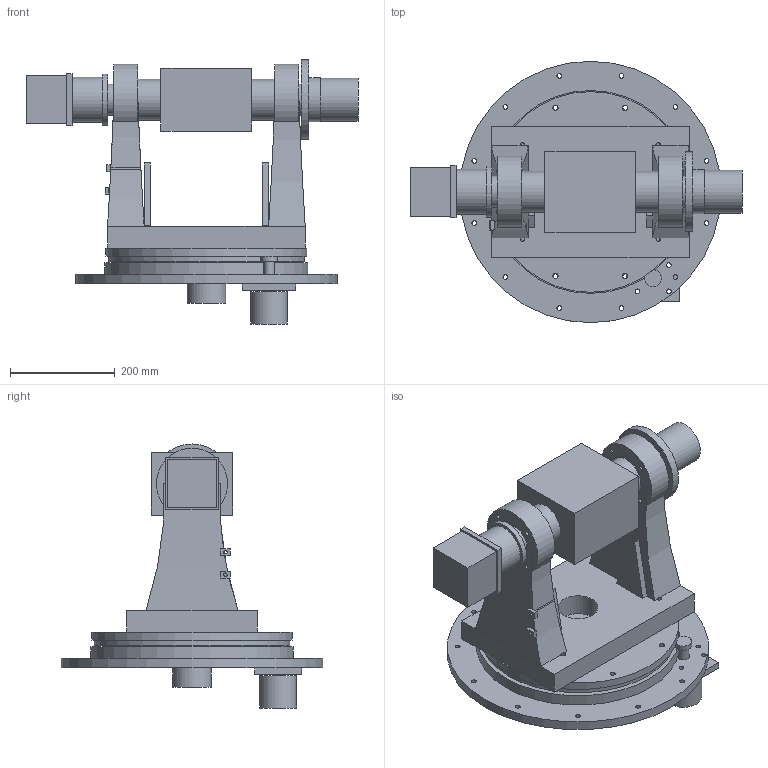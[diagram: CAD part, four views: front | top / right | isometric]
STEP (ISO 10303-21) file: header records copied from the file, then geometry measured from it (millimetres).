
FILE_DESCRIPTION(('Open CASCADE Model'),'2;1');
FILE_NAME('Open CASCADE Shape Model','2026-10-08T06:53:14',('Author'),( 'Open CASCADE'),'Open CASCADE STEP processor 7.8','Open CASCADE 7.8' ,'Unknown');
FILE_SCHEMA(('AUTOMOTIVE_DESIGN { 1 0 10303 214 1 1 1 1 }'));
Length unit declared in the file: millimetre
Products named in the file (32): IMAGE_DERIVED_GIMBAL_CONCEPT; 01_fixed_base_plate; 02_az_bearing_housing; 03_az_bearing_envelope; 04_az_hollow_shaft; 05_az_drive_ring; 06_az_rotating_turntable; 07_rotating_base_deck; 08_left_fork_arm; 09_right_fork_arm; 10_left_gusset; 11_right_gusset; 12_left_alt_bearing; 13_right_alt_bearing; 14_left_hollow_trunnion; 15_right_hollow_trunnion; 16_left_trunnion_spacer; 17_right_trunnion_spacer; 18_telescope_cradle_envelope; 19_camera_mount_adapter; 20_derotator_envelope; 21_camera_interface_plate; 22_camera_envelope; 23_alt_motor_mount; 24_alt_motor_coupler_envelope; 25_alt_motor_envelope; 26_az_motor_mount; 27_az_motor_envelope; 28_az_pinion_blank; 29_left_cable_clip; 30_left_cable_clip; 31_az_shaft_hub
Assembly tree (31 placements, depth 2):
  IMAGE_DERIVED_GIMBAL_CONCEPT
    01_fixed_base_plate
    02_az_bearing_housing
    03_az_bearing_envelope
    04_az_hollow_shaft
    05_az_drive_ring
    06_az_rotating_turntable
    07_rotating_base_deck
    08_left_fork_arm
    09_right_fork_arm
    10_left_gusset
    11_right_gusset
    12_left_alt_bearing
    13_right_alt_bearing
    14_left_hollow_trunnion
    15_right_hollow_trunnion
    16_left_trunnion_spacer
    17_right_trunnion_spacer
    18_telescope_cradle_envelope
    19_camera_mount_adapter
    20_derotator_envelope
    21_camera_interface_plate
    22_camera_envelope
    23_alt_motor_mount
    24_alt_motor_coupler_envelope
    25_alt_motor_envelope
    26_az_motor_mount
    27_az_motor_envelope
    28_az_pinion_blank
    29_left_cable_clip
    30_left_cable_clip
    31_az_shaft_hub
Bounding box: 635 x 500 x 505 mm (x, y, z)
Volume: 21093410.9 mm3; surface area: 2224088.1 mm2
Topology: 31 solids, 31 shells, 265 faces, 602 edges, 400 vertices
Faces by surface type: cylinder 153, plane 103, bspline 9
Full cylindrical faces by diameter (mm): 6.6 x3, 7 x10, 8 x20, 9 x40, 10 x32, 20 x1, 24 x1, 32 x1, 34 x3, 36 x1, 38 x1, 40 x2, 60 x2, 61 x4, 61.2 x2, 68 x1, 70 x1, 74 x1, 74.2 x1, 76 x3, 78 x2, 80 x2, 82 x3, 84 x1, 86 x1, 98 x1, 150 x1, 152 x1, 232 x1, 310 x2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
Entity records: 20327 total; most frequent: CARTESIAN_POINT 7122, DIRECTION 2328, ORIENTED_EDGE 1204, PCURVE 1204, DEFINITIONAL_REPRESENTATION 1204, LINE 1086, VECTOR 1086, EDGE_CURVE 602
